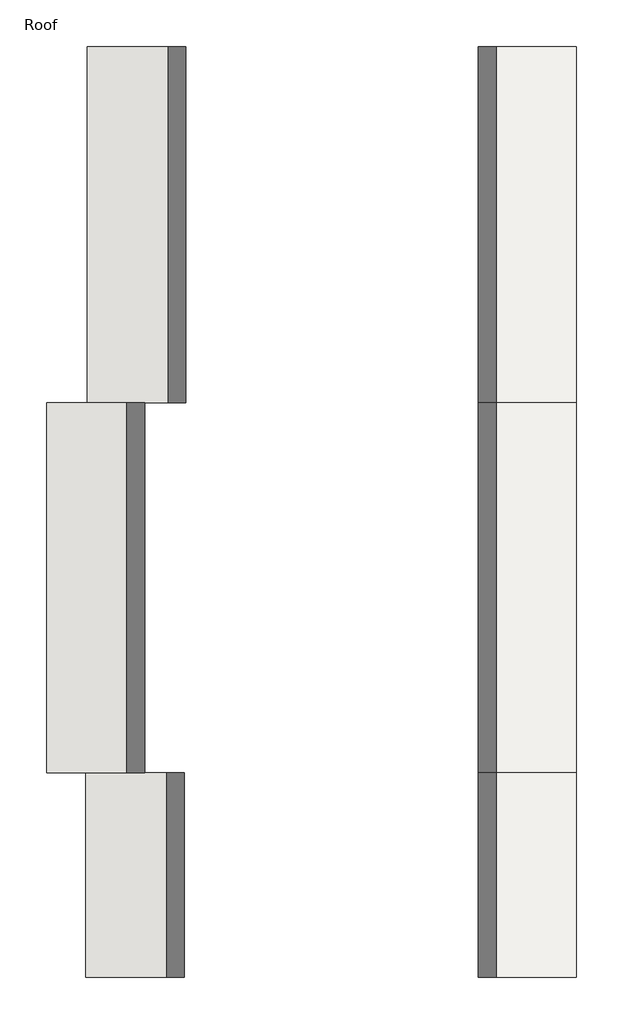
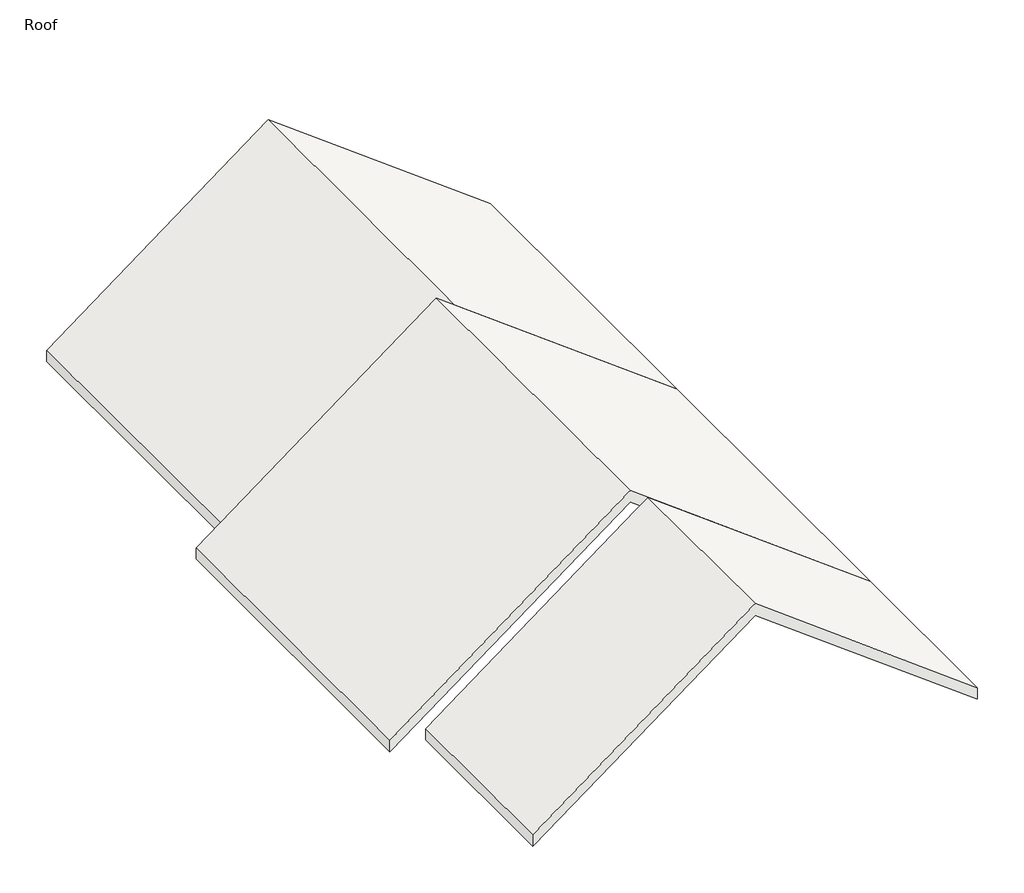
# One storey: 3 roofs.
"""IFC4 building model written with IfcOpenShell, lengths in millimetres."""

from ifc_helpers import new_model, si_unit, frame, origin, place, context, project, spatial, polyline, outline, extrude, element, save

model = new_model("IFC4")

# Units and contexts
model_context = context("Model", 3, world=origin())
ifc_project = project(units=[si_unit("LENGTHUNIT", "METRE", prefix="MILLI")], contexts=[model_context])

# Site, building, storey
site = spatial("IfcSite", under=ifc_project)
building = spatial("IfcBuilding", under=site)
storey = spatial("IfcBuildingStorey", under=building, Name="Roof", Elevation=5486.4)

# Roofs
placement = place(None, origin())
element("IfcRoof", 1, ObjectType="Wood Rafter Red 8\" - Asphalt Shingle 2", at=placement, inside=storey, context=model_context, shape_type="SweptSolid", body=[
    extrude(outline(polyline([(5519.7375, -769.3480992), (9073.753125, -5508.0355992), (5519.7375, -10246.7230992), (5265.7375, -10246.7230992), (5265.7375, -10236.1397659), (8811.815625, -5508.0355992), (5265.7375, -779.9314325), (5265.7375, -769.3480992), (5519.7375, -769.3480992)])), frame((0.0, 3665.3172697, 0.0), z_axis=(0.0, 1.0, 0.0), x_axis=(0.0, 0.0, 1.0)), (0.0, 0.0, 1.0), 6902.45),
])
element("IfcRoof", 2, ObjectType="Wood Rafter Red 8\" - Asphalt Shingle 2", at=placement, inside=storey, context=model_context, shape_type="SweptSolid", body=[
    extrude(outline(polyline([(5519.7375, -769.3480992), (9370.21875, -5903.3230992), (5519.7375, -11037.2980992), (5265.7375, -11037.2980992), (5265.7375, -11026.7147659), (9108.28125, -5903.3230992), (5265.7375, -779.9314325), (5265.7375, -769.3480992), (5519.7375, -769.3480992)])), frame((0.0, -3510.1827303, 0.0), z_axis=(0.0, 1.0, 0.0), x_axis=(0.0, 0.0, 1.0)), (0.0, 0.0, 1.0), 7175.5),
])
element("IfcRoof", 3, ObjectType="Wood Rafter Red 8\" - Asphalt Shingle 2", at=placement, inside=storey, context=model_context, shape_type="SweptSolid", body=[
    extrude(outline(polyline([(5519.7375, -769.3480992), (9084.46875, -5522.3230992), (5519.7375, -10275.2980992), (5265.7375, -10275.2980992), (5265.7375, -10264.7147659), (8822.53125, -5522.3230992), (5265.7375, -779.9314325), (5265.7375, -769.3480992), (5519.7375, -769.3480992)])), frame((0.0, -7472.5827303, 0.0), z_axis=(0.0, 1.0, 0.0), x_axis=(0.0, 0.0, 1.0)), (0.0, 0.0, 1.0), 3962.4),
])

save(model, "model.ifc")
